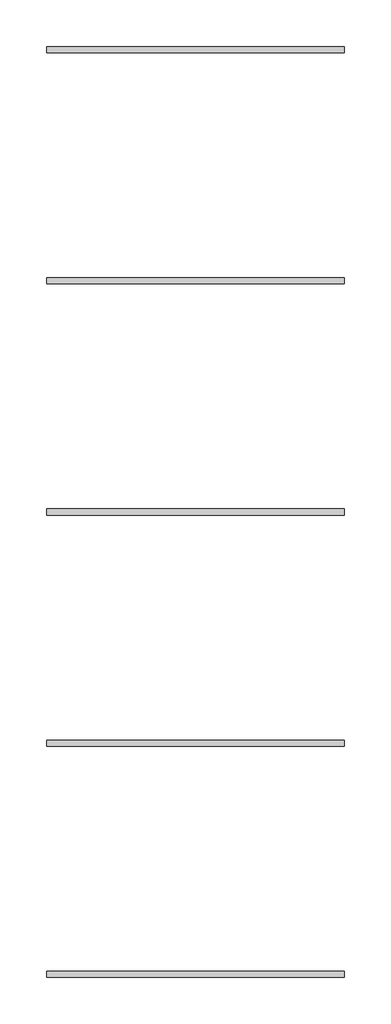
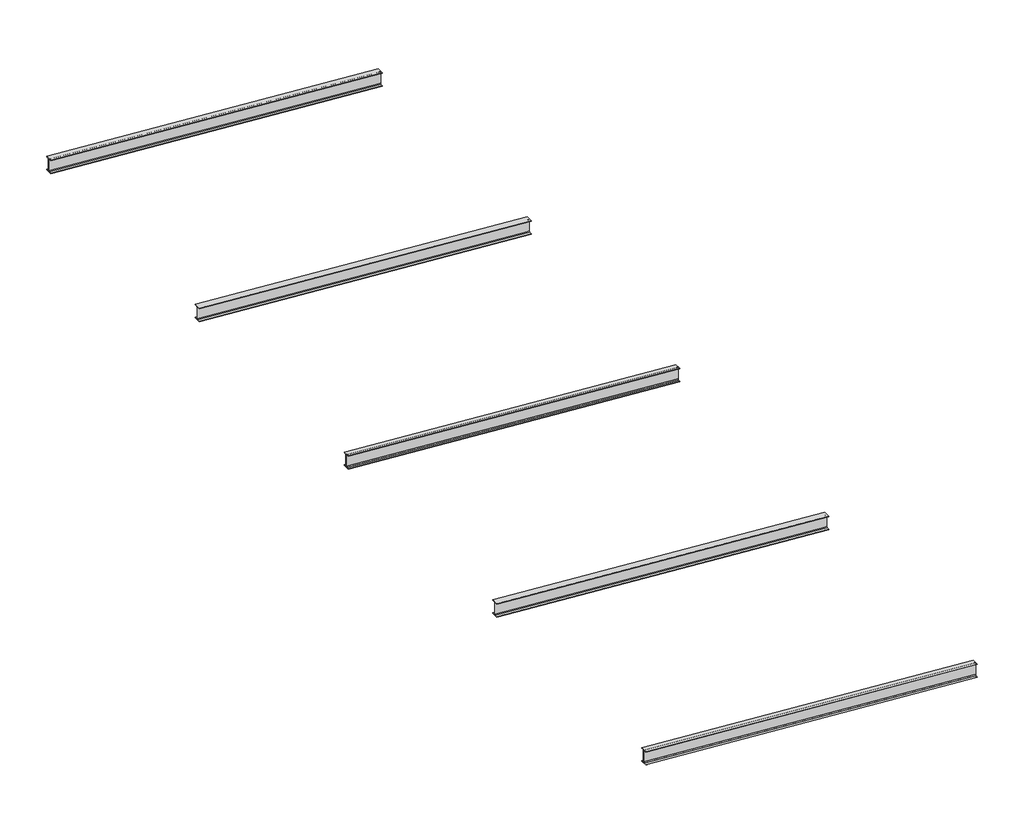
# One storey, part 2 of 2: 5 beams.
"""IFC4 building model written with IfcOpenShell, lengths in millimetres."""

import ifcopenshell
import ifcopenshell.guid

model = None  # the IFC model being written
_history = None  # IfcOwnerHistory: only IFC2X3 demands one
_inside = {}  # id of a spatial element -> (the spatial element, [elements in it])
_under = {}  # id of a project, library or spatial element -> (it, [spatial elements below it])
_declared = {}  # id of a project -> (the project, [libraries it declares])
_typed = {}  # id of a type object -> (the type object, [elements of that type])
_made_of = {}  # id of a material, layer set ... -> (it, [elements and type objects made of it])


def new_model(schema):
    """Start an empty IFC model of exactly this schema.

    Asked for "IFC4X3", IfcOpenShell would pick the latest addendum, in which some entities
    have other attributes; the version numbers below select the first issue.
    IFC2X3 requires an IfcOwnerHistory on every rooted entity: one is made here for all.
    """
    global model, _history
    if schema == "IFC4X3":
        model = ifcopenshell.file(schema_version=(4, 3, 0, 0))
    else:
        model = ifcopenshell.file(schema=schema)
    _inside.clear()
    _under.clear()
    _declared.clear()
    _typed.clear()
    _made_of.clear()
    _history = None
    if model.schema == "IFC2X3":
        org = make("IfcOrganization", Name="unknown")
        user = make(
            "IfcPersonAndOrganization",
            ThePerson=make("IfcPerson", FamilyName="unknown"),
            TheOrganization=org,
        )
        app = make(
            "IfcApplication",
            ApplicationDeveloper=org,
            Version="unknown",
            ApplicationFullName="unknown",
            ApplicationIdentifier="unknown",
        )
        _history = make(
            "IfcOwnerHistory",
            OwningUser=user,
            OwningApplication=app,
            ChangeAction="ADDED",
            CreationDate=0,
        )
    return model


def make(cls, **values):
    """One entity of the class cls with the attributes given. An attribute that is None is left unset."""
    return model.create_entity(
        cls, **{name: value for name, value in values.items() if value is not None}
    )


def rooted(cls, **values):
    """An entity with a GlobalId (a new one), such as an element, a storey or a relation."""
    return make(cls, GlobalId=ifcopenshell.guid.new(), OwnerHistory=_history, **values)


def si_unit(unit_type, name, prefix=None):
    """IfcSIUnit, for example si_unit("LENGTHUNIT", "METRE", prefix="MILLI")."""
    return make("IfcSIUnit", UnitType=unit_type, Prefix=prefix, Name=name)


def assignment(units):
    """IfcUnitAssignment: the units of a project."""
    return None if units is None else make("IfcUnitAssignment", Units=units)


def point(xyz):
    """IfcCartesianPoint."""
    return None if xyz is None else make("IfcCartesianPoint", Coordinates=xyz)


def direction(xyz):
    """IfcDirection."""
    return None if xyz is None else make("IfcDirection", DirectionRatios=xyz)


def frame(location, z_axis=None, x_axis=None):
    """IfcAxis2Placement3D, a coordinate frame: its origin and axes. An axis left out is left unset."""
    return make(
        "IfcAxis2Placement3D",
        Location=point(location),
        Axis=direction(z_axis),
        RefDirection=direction(x_axis),
    )


def origin():
    """The frame at (0, 0, 0) with its axes left unset."""
    return frame((0.0, 0.0, 0.0))


def place(relative_to, where):
    """IfcLocalPlacement: puts the frame where relative to a parent placement (None: the world)."""
    return make(
        "IfcLocalPlacement", PlacementRelTo=relative_to, RelativePlacement=where
    )


def context(
    kind, dimensions, precision=None, world=None, true_north=None, identifier=None
):
    """IfcGeometricRepresentationContext, for example the 3D "Model" context."""
    return make(
        "IfcGeometricRepresentationContext",
        ContextIdentifier=identifier,
        ContextType=kind,
        CoordinateSpaceDimension=dimensions,
        Precision=precision,
        WorldCoordinateSystem=world,
        TrueNorth=true_north,
    )


def project(units=None, contexts=None):
    """IfcProject with its units and contexts."""
    return rooted(
        "IfcProject",
        Name="project",
        RepresentationContexts=contexts,
        UnitsInContext=assignment(units),
    )


def spatial(cls, under=None, at=None, **own):
    """A site, building, storey or space (cls), placed at a placement, below another one or the project."""
    s = rooted(cls, ObjectPlacement=at, **own)
    if under is not None:
        _under.setdefault(under.id(), (under, []))[1].append(s)
    return s


def polyline(points):
    """IfcPolyline through the points."""
    return make("IfcPolyline", Points=[point(p) for p in points])


def ellipse_curve(where, semi_axis1, semi_axis2):
    """IfcEllipse in the frame where."""
    return make(
        "IfcEllipse", Position=where, SemiAxis1=semi_axis1, SemiAxis2=semi_axis2
    )


def shape(context_of_items, identifier, shape_type, items):
    """IfcShapeRepresentation: the items that make up one representation, for example the "Body"."""
    return make(
        "IfcShapeRepresentation",
        ContextOfItems=context_of_items,
        RepresentationIdentifier=identifier,
        RepresentationType=shape_type,
        Items=items,
    )


def made_of(thing, what):
    """Note that an element or type object is made of a material, layer set ...; save() writes the relation."""
    if what is not None:
        _made_of.setdefault(what.id(), (what, []))[1].append(thing)
    return thing


def element(
    cls,
    number,
    at=None,
    inside=None,
    cuts=None,
    type_object=None,
    material=None,
    context=None,
    identifier="Body",
    shape_type=None,
    held_by="IfcProductDefinitionShape",
    body=None,
    shapes=None,
    **own,
):
    """One element of the class cls, such as IfcWall. Its Tag is "e" and its number.

    at: its placement. inside: the storey or other place that contains it. cuts: it is an
    opening in that element (IfcRelVoidsElement). A single representation is given by context,
    identifier, shape_type and body (its items); several are given by shapes. held_by: the class
    of the entity that holds the representations. save() writes the other relations.
    """
    e = rooted(cls, Tag="e%d" % number, ObjectPlacement=at, **own)
    if body is not None:
        shapes = [shape(context, identifier, shape_type, body)]
    if shapes is not None:
        e.Representation = make(held_by, Representations=shapes)
    if inside is not None:
        _inside.setdefault(inside.id(), (inside, []))[1].append(e)
    if cuts is not None:
        rooted(
            "IfcRelVoidsElement", RelatingBuildingElement=cuts, RelatedOpeningElement=e
        )
    if type_object is not None:
        _typed.setdefault(type_object.id(), (type_object, []))[1].append(e)
    return made_of(e, material)


def aggregate(whole, parts):
    """IfcRelAggregates: a whole, such as a stair, and the parts it consists of."""
    return rooted("IfcRelAggregates", RelatingObject=whole, RelatedObjects=parts)


def save(model, path):
    """Write the relations noted so far, then the file.

    IfcRelAggregates (storeys below a building ...), IfcRelContainedInSpatialStructure (elements
    in a storey), IfcRelDefinesByType, IfcRelAssociatesMaterial and IfcRelDeclares: one each for
    every whole, place, type object, material and project.
    """
    for whole, parts in _under.values():
        aggregate(whole, parts)
    for where, things in _inside.values():
        rooted(
            "IfcRelContainedInSpatialStructure",
            RelatedElements=things,
            RelatingStructure=where,
        )
    for kind, things in _typed.values():
        rooted("IfcRelDefinesByType", RelatedObjects=things, RelatingType=kind)
    for what, things in _made_of.values():
        rooted("IfcRelAssociatesMaterial", RelatedObjects=things, RelatingMaterial=what)
    for by, libraries in _declared.values():
        rooted("IfcRelDeclares", RelatingContext=by, RelatedDefinitions=libraries)
    model.write(path)


def plane_surface(at):
    """IfcPlane: the flat surface through the origin of the frame at, square to its z axis."""
    return make("IfcPlane", Position=at)


def revolved_surface(curve, axis_point, axis_direction):
    """IfcSurfaceOfRevolution: the curve turned about the line through axis_point along axis_direction."""
    return make(
        "IfcSurfaceOfRevolution",
        SweptCurve=make("IfcArbitraryOpenProfileDef", ProfileType="CURVE", Curve=curve),
        AxisPosition=make("IfcAxis1Placement", Location=point(axis_point), Axis=direction(axis_direction)),
    )


def advanced_brep(points, edges, surfaces, faces):
    """IfcAdvancedBrep: a solid bounded by faces that lie on surfaces and meet in shared edges.

    An edge is (start, end): straight between two places in points (the first is 0);
    or (start, end, curve); or (start, end, curve, False) where it runs against its curve.
    A face is (place in surfaces, loops), or (place, loops, False) where it looks against
    its surface's normal. A loop lists edges by number (the first is 1), with a minus sign
    where the edge is run from its end to its start. The first loop is the outer one.
    """
    corners = [point(p) for p in points]
    vertices = [make("IfcVertexPoint", VertexGeometry=c) for c in corners]
    made = []
    for start, end, *more in edges:
        made.append(
            make(
                "IfcEdgeCurve",
                EdgeStart=vertices[start],
                EdgeEnd=vertices[end],
                EdgeGeometry=more[0] if more else make("IfcPolyline", Points=[corners[start], corners[end]]),
                SameSense=more[1] if len(more) > 1 else True,
            )
        )
    hull = []
    for where, loops, *sense in faces:
        bounds = []
        for j, loop in enumerate(loops):
            ring = [make("IfcOrientedEdge", EdgeElement=made[abs(k) - 1], Orientation=k > 0) for k in loop]
            bounds.append(
                make(
                    "IfcFaceOuterBound" if j == 0 else "IfcFaceBound",
                    Bound=make("IfcEdgeLoop", EdgeList=ring),
                    Orientation=True,
                )
            )
        hull.append(make("IfcAdvancedFace", Bounds=bounds, FaceSurface=surfaces[where], SameSense=sense[0] if sense else True))
    return make("IfcAdvancedBrep", Outer=make("IfcClosedShell", CfsFaces=hull))


model = new_model("IFC4")

# Units and contexts
model_context = context("Model", 3, world=origin())
ifc_project = project(units=[si_unit("LENGTHUNIT", "METRE", prefix="MILLI")], contexts=[model_context])

# Site, building, storey
site = spatial("IfcSite", under=ifc_project)
building = spatial("IfcBuilding", under=site)
storey = spatial("IfcBuildingStorey", under=building, Name="+3,50 góra", Elevation=3504.0)

# Beams
placement = place(None, origin())
element("IfcBeam", 1, ObjectType="RPLN IPE - Dwuteowniki równoległościenne : I330PE", at=placement, inside=storey, context=model_context, shape_type="AdvancedBrep", body=[
    advanced_brep(
    [(4098.4032904, 17109.2683415, 4052.3806511), (4098.4032904, 17167.5183415, 4052.3806511), (4098.4032904, 17167.5183415, 4040.8513801), (4098.4032904, 17007.5183415, 4040.8513801), (4098.4032904, 17007.5183415, 4052.3806511), (4098.4032904, 17065.7683415, 4052.3806511), (4098.4032904, 17083.7683415, 4070.4264665), (4098.4032904, 17083.7683415, 4342.1162438), (4098.4032904, 17065.7683415, 4360.1620592), (4098.4032904, 17007.5183415, 4360.1620592), (4098.4032904, 17007.5183415, 4371.6913302), (4098.4032904, 17167.5183415, 4371.6913302), (4098.4032904, 17167.5183415, 4360.1620592), (4098.4032904, 17109.2683415, 4360.1620592), (4098.4032904, 17091.2683415, 4342.1162438), (4098.4032904, 17091.2683415, 4070.4264665), (11827.9888896, 17167.5183415, 3500.5355804), (11827.9888896, 17109.2683415, 3500.5355804), (11827.9888896, 17091.2683415, 3518.5813959), (11827.9888896, 17091.2683415, 3790.2711731), (11827.9888896, 17109.2683415, 3808.3169886), (11827.9888896, 17167.5183415, 3808.3169886), (11827.9888896, 17167.5183415, 3819.8462596), (11827.9888896, 17007.5183415, 3819.8462596), (11827.9888896, 17007.5183415, 3808.3169886), (11827.9888896, 17065.7683415, 3808.3169886), (11827.9888896, 17083.7683415, 3790.2711731), (11827.9888896, 17083.7683415, 3518.5813959), (11827.9888896, 17065.7683415, 3500.5355804), (11827.9888896, 17007.5183415, 3500.5355804), (11827.9888896, 17007.5183415, 3489.0063094), (11827.9888896, 17167.5183415, 3489.0063094)],
    [
        (0, 1),
        (1, 2),
        (2, 3),
        (3, 4),
        (4, 5),
        (5, 6, ellipse_curve(frame((4098.4032904, 17065.7683415, 4070.4264665), z_axis=(1.0, 0.0, 0.0), x_axis=(0.0, 0.0, 1.0)), 18.0458155, 18.0)),
        (6, 7),
        (7, 8, ellipse_curve(frame((4098.4032904, 17065.7683415, 4342.1162438), z_axis=(1.0, 0.0, 0.0), x_axis=(0.0, 0.0, 1.0)), 18.0458155, 18.0)),
        (8, 9),
        (9, 10),
        (10, 11),
        (11, 12),
        (12, 13),
        (13, 14, ellipse_curve(frame((4098.4032904, 17109.2683415, 4342.1162438), z_axis=(1.0, 0.0, 0.0), x_axis=(0.0, 0.0, 1.0)), 18.0458155, 18.0)),
        (14, 15),
        (15, 0, ellipse_curve(frame((4098.4032904, 17109.2683415, 4070.4264665), z_axis=(1.0, 0.0, 0.0), x_axis=(0.0, 0.0, 1.0)), 18.0458155, 18.0)),
        (16, 17),
        (17, 18, ellipse_curve(frame((11827.9888896, 17109.2683415, 3518.5813959), z_axis=(-1.0, 0.0, 0.0), x_axis=(0.0, 0.0, 1.0)), 18.0458155, 18.0)),
        (18, 19),
        (19, 20, ellipse_curve(frame((11827.9888896, 17109.2683415, 3790.2711731), z_axis=(-1.0, 0.0, 0.0), x_axis=(0.0, 0.0, 1.0)), 18.0458155, 18.0)),
        (20, 21),
        (21, 22),
        (22, 23),
        (23, 24),
        (24, 25),
        (25, 26, ellipse_curve(frame((11827.9888896, 17065.7683415, 3790.2711731), z_axis=(-1.0, 0.0, 0.0), x_axis=(0.0, 0.0, 1.0)), 18.0458155, 18.0)),
        (26, 27),
        (27, 28, ellipse_curve(frame((11827.9888896, 17065.7683415, 3518.5813959), z_axis=(-1.0, 0.0, 0.0), x_axis=(0.0, 0.0, 1.0)), 18.0458155, 18.0)),
        (28, 29),
        (29, 30),
        (30, 31),
        (31, 16),
        (16, 1),
        (0, 17),
        (31, 2),
        (30, 3),
        (29, 4),
        (28, 5),
        (27, 6),
        (26, 7),
        (25, 8),
        (24, 9),
        (23, 10),
        (22, 11),
        (21, 12),
        (20, 13),
        (19, 14),
        (18, 15),
    ],
    [
        plane_surface(frame((4098.4032904, -28791.4644976, 4040.8513801), z_axis=(-1.0, 0.0, 0.0), x_axis=(0.0, 0.0, -1.0))),
        plane_surface(frame((11827.9888896, -28791.4644976, 3790.5936883), z_axis=(1.0, 0.0, 0.0), x_axis=(0.0, 0.0, 1.0))),
        plane_surface(frame((11888.751267, 17167.5183415, 3496.1975188), z_axis=(0.0712126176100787, 0.0, 0.997461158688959), x_axis=(-0.997461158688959, 0.0, 0.0712126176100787))),
        plane_surface(frame((11887.9323219, 17167.5183415, 3484.7267155), z_axis=(0.0, 1.0, 0.0), x_axis=(-0.997461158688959, 0.0, 0.0712126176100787))),
        plane_surface(frame((11887.9323219, 17007.5183415, 3484.7267155), z_axis=(-0.0712126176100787, 0.0, -0.997461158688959), x_axis=(-0.997461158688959, 0.0, 0.0712126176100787))),
        plane_surface(frame((11888.751267, 17007.5183415, 3496.1975188), z_axis=(0.0, -1.0, 0.0), x_axis=(-0.997461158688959, 0.0, 0.0712126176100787))),
        plane_surface(frame((11888.751267, 17065.7683415, 3496.1975188), z_axis=(0.0712126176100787, 0.0, 0.997461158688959), x_axis=(-0.997461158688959, 0.0, 0.0712126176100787))),
        revolved_surface(polyline([(4097.1214632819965, 17047.7683415, 4070.517981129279), (11829.270716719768, 17047.7683415, 3518.489881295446)]), (11890.0330941, 17065.7683415, 3514.1518197), (-0.997461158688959, 0.0, 0.0712126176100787)),
        plane_surface(frame((11909.3317135, 17083.7683415, 3784.4637937), z_axis=(0.0, -1.0, 0.0), x_axis=(-0.997461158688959, 0.0, 0.0712126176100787))),
        revolved_surface(polyline([(4097.121463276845, 17047.7683415, 4342.2077583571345), (11829.270716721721, 17047.7683415, 3790.179658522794)]), (11909.3317135, 17065.7683415, 3784.4637937), (-0.997461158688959, 0.0, 0.0712126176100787)),
        plane_surface(frame((11910.6135406, 17007.5183415, 3802.4180946), z_axis=(-0.0712126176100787, 0.0, -0.997461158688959), x_axis=(-0.997461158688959, 0.0, 0.0712126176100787))),
        plane_surface(frame((11911.4324857, 17007.5183415, 3813.8888979), z_axis=(0.0, -1.0, 0.0), x_axis=(-0.997461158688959, 0.0, 0.0712126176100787))),
        plane_surface(frame((11911.4324857, 17167.5183415, 3813.8888979), z_axis=(0.0712126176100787, 0.0, 0.997461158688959), x_axis=(-0.997461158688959, 0.0, 0.0712126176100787))),
        plane_surface(frame((11910.6135406, 17167.5183415, 3802.4180946), z_axis=(0.0, 1.0, 0.0), x_axis=(-0.997461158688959, 0.0, 0.0712126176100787))),
        plane_surface(frame((11910.6135406, 17109.2683415, 3802.4180946), z_axis=(-0.0712126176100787, 0.0, -0.997461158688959), x_axis=(-0.997461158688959, 0.0, 0.0712126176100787))),
        revolved_surface(polyline([(4097.121463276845, 17091.2683415, 4342.2077583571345), (11829.270716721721, 17091.2683415, 3790.179658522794)]), (11909.3317135, 17109.2683415, 3784.4637937), (-0.997461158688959, 0.0, 0.0712126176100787)),
        plane_surface(frame((11890.0330941, 17091.2683415, 3514.1518197), z_axis=(0.0, 1.0, 0.0), x_axis=(-0.997461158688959, 0.0, 0.0712126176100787))),
        revolved_surface(polyline([(4097.1214632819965, 17091.2683415, 4070.517981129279), (11829.270716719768, 17091.2683415, 3518.489881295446)]), (11890.0330941, 17109.2683415, 3514.1518197), (-0.997461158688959, 0.0, 0.0712126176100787)),
    ],
    [
        (0, [[1, 2, 3, 4, 5, 6, 7, 8, 9, 10, 11, 12, 13, 14, 15, 16]]),
        (1, [[17, 18, 19, 20, 21, 22, 23, 24, 25, 26, 27, 28, 29, 30, 31, 32]]),
        (2, [[33, -1, 34, -17]]),
        (3, [[35, -2, -33, -32]]),
        (4, [[36, -3, -35, -31]]),
        (5, [[37, -4, -36, -30]]),
        (6, [[38, -5, -37, -29]]),
        (7, [[39, -6, -38, -28]]),
        (8, [[40, -7, -39, -27]]),
        (9, [[41, -8, -40, -26]]),
        (10, [[42, -9, -41, -25]]),
        (11, [[43, -10, -42, -24]]),
        (12, [[44, -11, -43, -23]]),
        (13, [[45, -12, -44, -22]]),
        (14, [[46, -13, -45, -21]]),
        (15, [[47, -14, -46, -20]]),
        (16, [[48, -15, -47, -19]]),
        (17, [[-34, -16, -48, -18]]),
    ],
),
])
element("IfcBeam", 2, ObjectType="RPLN IPE - Dwuteowniki równoległościenne : I330PE", at=placement, inside=storey, context=model_context, shape_type="AdvancedBrep", body=[
    advanced_brep(
    [(4098.4032904, -6890.7316585, 4052.3806511), (4098.4032904, -6832.4816585, 4052.3806511), (4098.4032904, -6832.4816585, 4040.8513801), (4098.4032904, -6992.4816585, 4040.8513801), (4098.4032904, -6992.4816585, 4052.3806511), (4098.4032904, -6934.2316585, 4052.3806511), (4098.4032904, -6916.2316585, 4070.4264665), (4098.4032904, -6916.2316585, 4342.1162438), (4098.4032904, -6934.2316585, 4360.1620592), (4098.4032904, -6992.4816585, 4360.1620592), (4098.4032904, -6992.4816585, 4371.6913302), (4098.4032904, -6832.4816585, 4371.6913302), (4098.4032904, -6832.4816585, 4360.1620592), (4098.4032904, -6890.7316585, 4360.1620592), (4098.4032904, -6908.7316585, 4342.1162438), (4098.4032904, -6908.7316585, 4070.4264665), (11827.9888896, -6832.4816585, 3500.5355804), (11827.9888896, -6890.7316585, 3500.5355804), (11827.9888896, -6908.7316585, 3518.5813959), (11827.9888896, -6908.7316585, 3790.2711731), (11827.9888896, -6890.7316585, 3808.3169886), (11827.9888896, -6832.4816585, 3808.3169886), (11827.9888896, -6832.4816585, 3819.8462596), (11827.9888896, -6992.4816585, 3819.8462596), (11827.9888896, -6992.4816585, 3808.3169886), (11827.9888896, -6934.2316585, 3808.3169886), (11827.9888896, -6916.2316585, 3790.2711731), (11827.9888896, -6916.2316585, 3518.5813959), (11827.9888896, -6934.2316585, 3500.5355804), (11827.9888896, -6992.4816585, 3500.5355804), (11827.9888896, -6992.4816585, 3489.0063094), (11827.9888896, -6832.4816585, 3489.0063094)],
    [
        (0, 1),
        (1, 2),
        (2, 3),
        (3, 4),
        (4, 5),
        (5, 6, ellipse_curve(frame((4098.4032904, -6934.2316585, 4070.4264665), z_axis=(1.0, 0.0, 0.0), x_axis=(0.0, 0.0, 1.0)), 18.0458155, 18.0)),
        (6, 7),
        (7, 8, ellipse_curve(frame((4098.4032904, -6934.2316585, 4342.1162438), z_axis=(1.0, 0.0, 0.0), x_axis=(0.0, 0.0, 1.0)), 18.0458155, 18.0)),
        (8, 9),
        (9, 10),
        (10, 11),
        (11, 12),
        (12, 13),
        (13, 14, ellipse_curve(frame((4098.4032904, -6890.7316585, 4342.1162438), z_axis=(1.0, 0.0, 0.0), x_axis=(0.0, 0.0, 1.0)), 18.0458155, 18.0)),
        (14, 15),
        (15, 0, ellipse_curve(frame((4098.4032904, -6890.7316585, 4070.4264665), z_axis=(1.0, 0.0, 0.0), x_axis=(0.0, 0.0, 1.0)), 18.0458155, 18.0)),
        (16, 17),
        (17, 18, ellipse_curve(frame((11827.9888896, -6890.7316585, 3518.5813959), z_axis=(-1.0, 0.0, 0.0), x_axis=(0.0, 0.0, 1.0)), 18.0458155, 18.0)),
        (18, 19),
        (19, 20, ellipse_curve(frame((11827.9888896, -6890.7316585, 3790.2711731), z_axis=(-1.0, 0.0, 0.0), x_axis=(0.0, 0.0, 1.0)), 18.0458155, 18.0)),
        (20, 21),
        (21, 22),
        (22, 23),
        (23, 24),
        (24, 25),
        (25, 26, ellipse_curve(frame((11827.9888896, -6934.2316585, 3790.2711731), z_axis=(-1.0, 0.0, 0.0), x_axis=(0.0, 0.0, 1.0)), 18.0458155, 18.0)),
        (26, 27),
        (27, 28, ellipse_curve(frame((11827.9888896, -6934.2316585, 3518.5813959), z_axis=(-1.0, 0.0, 0.0), x_axis=(0.0, 0.0, 1.0)), 18.0458155, 18.0)),
        (28, 29),
        (29, 30),
        (30, 31),
        (31, 16),
        (16, 1),
        (0, 17),
        (31, 2),
        (30, 3),
        (29, 4),
        (28, 5),
        (27, 6),
        (26, 7),
        (25, 8),
        (24, 9),
        (23, 10),
        (22, 11),
        (21, 12),
        (20, 13),
        (19, 14),
        (18, 15),
    ],
    [
        plane_surface(frame((4098.4032904, -28791.4644976, 4040.8513801), z_axis=(-1.0, 0.0, 0.0), x_axis=(0.0, 0.0, -1.0))),
        plane_surface(frame((11827.9888896, -28791.4644976, 3790.5936883), z_axis=(1.0, 0.0, 0.0), x_axis=(0.0, 0.0, 1.0))),
        plane_surface(frame((11939.8742372, -6832.4816585, 3492.5476519), z_axis=(0.07121261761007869, 0.0, 0.997461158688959), x_axis=(-0.997461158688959, 0.0, 0.07121261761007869))),
        plane_surface(frame((11939.0552921, -6832.4816585, 3481.0768486), z_axis=(0.0, 1.0, 0.0), x_axis=(-0.997461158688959, 0.0, 0.07121261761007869))),
        plane_surface(frame((11939.0552921, -6992.4816585, 3481.0768486), z_axis=(-0.07121261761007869, 0.0, -0.997461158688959), x_axis=(-0.997461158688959, 0.0, 0.07121261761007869))),
        plane_surface(frame((11939.8742372, -6992.4816585, 3492.5476519), z_axis=(0.0, -1.0, 0.0), x_axis=(-0.997461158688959, 0.0, 0.07121261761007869))),
        plane_surface(frame((11939.8742372, -6934.2316585, 3492.5476519), z_axis=(0.07121261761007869, 0.0, 0.997461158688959), x_axis=(-0.997461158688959, 0.0, 0.07121261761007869))),
        revolved_surface(polyline([(4097.1214632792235, -6952.2316585, 4070.5179810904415), (11829.270716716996, -6952.2316585, 3518.4898812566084)]), (11941.1560643, -6934.2316585, 3510.5019527), (-0.997461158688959, 0.0, 0.07121261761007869)),
        plane_surface(frame((11960.4546837, -6916.2316585, 3780.8139267), z_axis=(0.0, -1.0, 0.0), x_axis=(-0.997461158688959, 0.0, 0.07121261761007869))),
        revolved_surface(polyline([(4097.121463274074, -6952.2316585, 4342.207758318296), (11829.270716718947, -6952.2316585, 3790.1796584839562)]), (11960.4546837, -6934.2316585, 3780.8139267), (-0.997461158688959, 0.0, 0.07121261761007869)),
        plane_surface(frame((11961.7365108, -6992.4816585, 3798.7682276), z_axis=(-0.07121261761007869, 0.0, -0.997461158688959), x_axis=(-0.997461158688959, 0.0, 0.07121261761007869))),
        plane_surface(frame((11962.5554559, -6992.4816585, 3810.2390309), z_axis=(0.0, -1.0, 0.0), x_axis=(-0.997461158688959, 0.0, 0.07121261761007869))),
        plane_surface(frame((11962.5554559, -6832.4816585, 3810.2390309), z_axis=(0.07121261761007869, 0.0, 0.997461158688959), x_axis=(-0.997461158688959, 0.0, 0.07121261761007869))),
        plane_surface(frame((11961.7365108, -6832.4816585, 3798.7682276), z_axis=(0.0, 1.0, 0.0), x_axis=(-0.997461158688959, 0.0, 0.07121261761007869))),
        plane_surface(frame((11961.7365108, -6890.7316585, 3798.7682276), z_axis=(-0.07121261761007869, 0.0, -0.997461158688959), x_axis=(-0.997461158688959, 0.0, 0.07121261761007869))),
        revolved_surface(polyline([(4097.121463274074, -6908.7316585, 4342.207758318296), (11829.270716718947, -6908.7316585, 3790.1796584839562)]), (11960.4546837, -6890.7316585, 3780.8139267), (-0.997461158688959, 0.0, 0.07121261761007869)),
        plane_surface(frame((11941.1560643, -6908.7316585, 3510.5019527), z_axis=(0.0, 1.0, 0.0), x_axis=(-0.997461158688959, 0.0, 0.07121261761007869))),
        revolved_surface(polyline([(4097.1214632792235, -6908.7316585, 4070.5179810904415), (11829.270716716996, -6908.7316585, 3518.4898812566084)]), (11941.1560643, -6890.7316585, 3510.5019527), (-0.997461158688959, 0.0, 0.07121261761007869)),
    ],
    [
        (0, [[1, 2, 3, 4, 5, 6, 7, 8, 9, 10, 11, 12, 13, 14, 15, 16]]),
        (1, [[17, 18, 19, 20, 21, 22, 23, 24, 25, 26, 27, 28, 29, 30, 31, 32]]),
        (2, [[33, -1, 34, -17]]),
        (3, [[35, -2, -33, -32]]),
        (4, [[36, -3, -35, -31]]),
        (5, [[37, -4, -36, -30]]),
        (6, [[38, -5, -37, -29]]),
        (7, [[39, -6, -38, -28]]),
        (8, [[40, -7, -39, -27]]),
        (9, [[41, -8, -40, -26]]),
        (10, [[42, -9, -41, -25]]),
        (11, [[43, -10, -42, -24]]),
        (12, [[44, -11, -43, -23]]),
        (13, [[45, -12, -44, -22]]),
        (14, [[46, -13, -45, -21]]),
        (15, [[47, -14, -46, -20]]),
        (16, [[48, -15, -47, -19]]),
        (17, [[-34, -16, -48, -18]]),
    ],
),
])
element("IfcBeam", 3, ObjectType="RPLN IPE - Dwuteowniki równoległościenne : I330PE", at=placement, inside=storey, context=model_context, shape_type="AdvancedBrep", body=[
    advanced_brep(
    [(4098.4032904, -890.7316585, 4052.3806511), (4098.4032904, -832.4816585, 4052.3806511), (4098.4032904, -832.4816585, 4040.8513801), (4098.4032904, -992.4816585, 4040.8513801), (4098.4032904, -992.4816585, 4052.3806511), (4098.4032904, -934.2316585, 4052.3806511), (4098.4032904, -916.2316585, 4070.4264665), (4098.4032904, -916.2316585, 4342.1162438), (4098.4032904, -934.2316585, 4360.1620592), (4098.4032904, -992.4816585, 4360.1620592), (4098.4032904, -992.4816585, 4371.6913302), (4098.4032904, -832.4816585, 4371.6913302), (4098.4032904, -832.4816585, 4360.1620592), (4098.4032904, -890.7316585, 4360.1620592), (4098.4032904, -908.7316585, 4342.1162438), (4098.4032904, -908.7316585, 4070.4264665), (11827.9888896, -832.4816585, 3500.5355804), (11827.9888896, -890.7316585, 3500.5355804), (11827.9888896, -908.7316585, 3518.5813959), (11827.9888896, -908.7316585, 3790.2711731), (11827.9888896, -890.7316585, 3808.3169886), (11827.9888896, -832.4816585, 3808.3169886), (11827.9888896, -832.4816585, 3819.8462596), (11827.9888896, -992.4816585, 3819.8462596), (11827.9888896, -992.4816585, 3808.3169886), (11827.9888896, -934.2316585, 3808.3169886), (11827.9888896, -916.2316585, 3790.2711731), (11827.9888896, -916.2316585, 3518.5813959), (11827.9888896, -934.2316585, 3500.5355804), (11827.9888896, -992.4816585, 3500.5355804), (11827.9888896, -992.4816585, 3489.0063094), (11827.9888896, -832.4816585, 3489.0063094)],
    [
        (0, 1),
        (1, 2),
        (2, 3),
        (3, 4),
        (4, 5),
        (5, 6, ellipse_curve(frame((4098.4032904, -934.2316585, 4070.4264665), z_axis=(1.0, 0.0, 0.0), x_axis=(0.0, 0.0, 1.0)), 18.0458155, 18.0)),
        (6, 7),
        (7, 8, ellipse_curve(frame((4098.4032904, -934.2316585, 4342.1162438), z_axis=(1.0, 0.0, 0.0), x_axis=(0.0, 0.0, 1.0)), 18.0458155, 18.0)),
        (8, 9),
        (9, 10),
        (10, 11),
        (11, 12),
        (12, 13),
        (13, 14, ellipse_curve(frame((4098.4032904, -890.7316585, 4342.1162438), z_axis=(1.0, 0.0, 0.0), x_axis=(0.0, 0.0, 1.0)), 18.0458155, 18.0)),
        (14, 15),
        (15, 0, ellipse_curve(frame((4098.4032904, -890.7316585, 4070.4264665), z_axis=(1.0, 0.0, 0.0), x_axis=(0.0, 0.0, 1.0)), 18.0458155, 18.0)),
        (16, 17),
        (17, 18, ellipse_curve(frame((11827.9888896, -890.7316585, 3518.5813959), z_axis=(-1.0, 0.0, 0.0), x_axis=(0.0, 0.0, 1.0)), 18.0458155, 18.0)),
        (18, 19),
        (19, 20, ellipse_curve(frame((11827.9888896, -890.7316585, 3790.2711731), z_axis=(-1.0, 0.0, 0.0), x_axis=(0.0, 0.0, 1.0)), 18.0458155, 18.0)),
        (20, 21),
        (21, 22),
        (22, 23),
        (23, 24),
        (24, 25),
        (25, 26, ellipse_curve(frame((11827.9888896, -934.2316585, 3790.2711731), z_axis=(-1.0, 0.0, 0.0), x_axis=(0.0, 0.0, 1.0)), 18.0458155, 18.0)),
        (26, 27),
        (27, 28, ellipse_curve(frame((11827.9888896, -934.2316585, 3518.5813959), z_axis=(-1.0, 0.0, 0.0), x_axis=(0.0, 0.0, 1.0)), 18.0458155, 18.0)),
        (28, 29),
        (29, 30),
        (30, 31),
        (31, 16),
        (16, 1),
        (0, 17),
        (31, 2),
        (30, 3),
        (29, 4),
        (28, 5),
        (27, 6),
        (26, 7),
        (25, 8),
        (24, 9),
        (23, 10),
        (22, 11),
        (21, 12),
        (20, 13),
        (19, 14),
        (18, 15),
    ],
    [
        plane_surface(frame((4098.4032904, -28791.4644976, 4040.8513801), z_axis=(-1.0, 0.0, 0.0), x_axis=(0.0, 0.0, -1.0))),
        plane_surface(frame((11827.9888896, -28791.4644976, 3790.5936883), z_axis=(1.0, 0.0, 0.0), x_axis=(0.0, 0.0, 1.0))),
        plane_surface(frame((11939.320539, -832.4816585, 3492.5871825), z_axis=(0.07121261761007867, 0.0, 0.997461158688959), x_axis=(-0.997461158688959, 0.0, 0.07121261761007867))),
        plane_surface(frame((11938.5015939, -832.4816585, 3481.1163792), z_axis=(0.0, 1.0, 0.0), x_axis=(-0.997461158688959, 0.0, 0.07121261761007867))),
        plane_surface(frame((11938.5015939, -992.4816585, 3481.1163792), z_axis=(-0.07121261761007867, 0.0, -0.997461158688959), x_axis=(-0.997461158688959, 0.0, 0.07121261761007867))),
        plane_surface(frame((11939.320539, -992.4816585, 3492.5871825), z_axis=(0.0, -1.0, 0.0), x_axis=(-0.997461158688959, 0.0, 0.07121261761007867))),
        plane_surface(frame((11939.320539, -934.2316585, 3492.5871825), z_axis=(0.07121261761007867, 0.0, 0.997461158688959), x_axis=(-0.997461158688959, 0.0, 0.07121261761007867))),
        revolved_surface(polyline([(4097.121463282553, -952.2316585, 4070.5179811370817), (11829.270716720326, -952.2316585, 3518.4898813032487)]), (11940.6023662, -934.2316585, 3510.5414834), (-0.997461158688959, 0.0, 0.07121261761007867)),
        plane_surface(frame((11959.9009855, -916.2316585, 3780.8534574), z_axis=(0.0, -1.0, 0.0), x_axis=(-0.997461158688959, 0.0, 0.07121261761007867))),
        revolved_surface(polyline([(4097.121463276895, -952.2316585, 4342.207758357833), (11829.27071672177, -952.2316585, 3790.1796585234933)]), (11959.9009855, -934.2316585, 3780.8534574), (-0.997461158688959, 0.0, 0.07121261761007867)),
        plane_surface(frame((11961.1828127, -992.4816585, 3798.8077583), z_axis=(-0.07121261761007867, 0.0, -0.997461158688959), x_axis=(-0.997461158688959, 0.0, 0.07121261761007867))),
        plane_surface(frame((11962.0017578, -992.4816585, 3810.2785616), z_axis=(0.0, -1.0, 0.0), x_axis=(-0.997461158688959, 0.0, 0.07121261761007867))),
        plane_surface(frame((11962.0017578, -832.4816585, 3810.2785616), z_axis=(0.07121261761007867, 0.0, 0.997461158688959), x_axis=(-0.997461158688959, 0.0, 0.07121261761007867))),
        plane_surface(frame((11961.1828127, -832.4816585, 3798.8077583), z_axis=(0.0, 1.0, 0.0), x_axis=(-0.997461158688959, 0.0, 0.07121261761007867))),
        plane_surface(frame((11961.1828127, -890.7316585, 3798.8077583), z_axis=(-0.07121261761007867, 0.0, -0.997461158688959), x_axis=(-0.997461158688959, 0.0, 0.07121261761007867))),
        revolved_surface(polyline([(4097.121463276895, -908.7316585, 4342.207758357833), (11829.27071672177, -908.7316585, 3790.1796585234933)]), (11959.9009855, -890.7316585, 3780.8534574), (-0.997461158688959, 0.0, 0.07121261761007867)),
        plane_surface(frame((11940.6023662, -908.7316585, 3510.5414834), z_axis=(0.0, 1.0, 0.0), x_axis=(-0.997461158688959, 0.0, 0.07121261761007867))),
        revolved_surface(polyline([(4097.121463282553, -908.7316585, 4070.5179811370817), (11829.270716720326, -908.7316585, 3518.4898813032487)]), (11940.6023662, -890.7316585, 3510.5414834), (-0.997461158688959, 0.0, 0.07121261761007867)),
    ],
    [
        (0, [[1, 2, 3, 4, 5, 6, 7, 8, 9, 10, 11, 12, 13, 14, 15, 16]]),
        (1, [[17, 18, 19, 20, 21, 22, 23, 24, 25, 26, 27, 28, 29, 30, 31, 32]]),
        (2, [[33, -1, 34, -17]]),
        (3, [[35, -2, -33, -32]]),
        (4, [[36, -3, -35, -31]]),
        (5, [[37, -4, -36, -30]]),
        (6, [[38, -5, -37, -29]]),
        (7, [[39, -6, -38, -28]]),
        (8, [[40, -7, -39, -27]]),
        (9, [[41, -8, -40, -26]]),
        (10, [[42, -9, -41, -25]]),
        (11, [[43, -10, -42, -24]]),
        (12, [[44, -11, -43, -23]]),
        (13, [[45, -12, -44, -22]]),
        (14, [[46, -13, -45, -21]]),
        (15, [[47, -14, -46, -20]]),
        (16, [[48, -15, -47, -19]]),
        (17, [[-34, -16, -48, -18]]),
    ],
),
])
element("IfcBeam", 4, ObjectType="RPLN IPE - Dwuteowniki równoległościenne : I330PE", at=placement, inside=storey, context=model_context, shape_type="AdvancedBrep", body=[
    advanced_brep(
    [(4098.4032904, 5109.2683415, 4052.3806511), (4098.4032904, 5167.5183415, 4052.3806511), (4098.4032904, 5167.5183415, 4040.8513801), (4098.4032904, 5007.5183415, 4040.8513801), (4098.4032904, 5007.5183415, 4052.3806511), (4098.4032904, 5065.7683415, 4052.3806511), (4098.4032904, 5083.7683415, 4070.4264665), (4098.4032904, 5083.7683415, 4342.1162438), (4098.4032904, 5065.7683415, 4360.1620592), (4098.4032904, 5007.5183415, 4360.1620592), (4098.4032904, 5007.5183415, 4371.6913302), (4098.4032904, 5167.5183415, 4371.6913302), (4098.4032904, 5167.5183415, 4360.1620592), (4098.4032904, 5109.2683415, 4360.1620592), (4098.4032904, 5091.2683415, 4342.1162438), (4098.4032904, 5091.2683415, 4070.4264665), (11827.9888896, 5167.5183415, 3500.5355804), (11827.9888896, 5109.2683415, 3500.5355804), (11827.9888896, 5091.2683415, 3518.5813959), (11827.9888896, 5091.2683415, 3790.2711731), (11827.9888896, 5109.2683415, 3808.3169886), (11827.9888896, 5167.5183415, 3808.3169886), (11827.9888896, 5167.5183415, 3819.8462596), (11827.9888896, 5007.5183415, 3819.8462596), (11827.9888896, 5007.5183415, 3808.3169886), (11827.9888896, 5065.7683415, 3808.3169886), (11827.9888896, 5083.7683415, 3790.2711731), (11827.9888896, 5083.7683415, 3518.5813959), (11827.9888896, 5065.7683415, 3500.5355804), (11827.9888896, 5007.5183415, 3500.5355804), (11827.9888896, 5007.5183415, 3489.0063094), (11827.9888896, 5167.5183415, 3489.0063094)],
    [
        (0, 1),
        (1, 2),
        (2, 3),
        (3, 4),
        (4, 5),
        (5, 6, ellipse_curve(frame((4098.4032904, 5065.7683415, 4070.4264665), z_axis=(1.0, 0.0, 0.0), x_axis=(0.0, 0.0, 1.0)), 18.0458155, 18.0)),
        (6, 7),
        (7, 8, ellipse_curve(frame((4098.4032904, 5065.7683415, 4342.1162438), z_axis=(1.0, 0.0, 0.0), x_axis=(0.0, 0.0, 1.0)), 18.0458155, 18.0)),
        (8, 9),
        (9, 10),
        (10, 11),
        (11, 12),
        (12, 13),
        (13, 14, ellipse_curve(frame((4098.4032904, 5109.2683415, 4342.1162438), z_axis=(1.0, 0.0, 0.0), x_axis=(0.0, 0.0, 1.0)), 18.0458155, 18.0)),
        (14, 15),
        (15, 0, ellipse_curve(frame((4098.4032904, 5109.2683415, 4070.4264665), z_axis=(1.0, 0.0, 0.0), x_axis=(0.0, 0.0, 1.0)), 18.0458155, 18.0)),
        (16, 17),
        (17, 18, ellipse_curve(frame((11827.9888896, 5109.2683415, 3518.5813959), z_axis=(-1.0, 0.0, 0.0), x_axis=(0.0, 0.0, 1.0)), 18.0458155, 18.0)),
        (18, 19),
        (19, 20, ellipse_curve(frame((11827.9888896, 5109.2683415, 3790.2711731), z_axis=(-1.0, 0.0, 0.0), x_axis=(0.0, 0.0, 1.0)), 18.0458155, 18.0)),
        (20, 21),
        (21, 22),
        (22, 23),
        (23, 24),
        (24, 25),
        (25, 26, ellipse_curve(frame((11827.9888896, 5065.7683415, 3790.2711731), z_axis=(-1.0, 0.0, 0.0), x_axis=(0.0, 0.0, 1.0)), 18.0458155, 18.0)),
        (26, 27),
        (27, 28, ellipse_curve(frame((11827.9888896, 5065.7683415, 3518.5813959), z_axis=(-1.0, 0.0, 0.0), x_axis=(0.0, 0.0, 1.0)), 18.0458155, 18.0)),
        (28, 29),
        (29, 30),
        (30, 31),
        (31, 16),
        (16, 1),
        (0, 17),
        (31, 2),
        (30, 3),
        (29, 4),
        (28, 5),
        (27, 6),
        (26, 7),
        (25, 8),
        (24, 9),
        (23, 10),
        (22, 11),
        (21, 12),
        (20, 13),
        (19, 14),
        (18, 15),
    ],
    [
        plane_surface(frame((4098.4032904, -28791.4644976, 4040.8513801), z_axis=(-1.0, 0.0, 0.0), x_axis=(0.0, 0.0, -1.0))),
        plane_surface(frame((11827.9888896, -28791.4644976, 3790.5936883), z_axis=(1.0, 0.0, 0.0), x_axis=(0.0, 0.0, 1.0))),
        plane_surface(frame((11896.6488305, 5167.5183415, 3495.6336812), z_axis=(0.07121261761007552, 0.0, 0.9974611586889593), x_axis=(-0.9974611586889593, 0.0, 0.07121261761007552))),
        plane_surface(frame((11895.8298854, 5167.5183415, 3484.1628778), z_axis=(0.0, 1.0000000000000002, 0.0), x_axis=(-0.9974611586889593, 0.0, 0.07121261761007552))),
        plane_surface(frame((11895.8298854, 5007.5183415, 3484.1628778), z_axis=(-0.07121261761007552, 0.0, -0.9974611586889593), x_axis=(-0.9974611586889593, 0.0, 0.07121261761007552))),
        plane_surface(frame((11896.6488305, 5007.5183415, 3495.6336812), z_axis=(0.0, -1.0000000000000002, 0.0), x_axis=(-0.9974611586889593, 0.0, 0.07121261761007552))),
        plane_surface(frame((11896.6488305, 5065.7683415, 3495.6336812), z_axis=(0.07121261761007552, 0.0, 0.9974611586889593), x_axis=(-0.9974611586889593, 0.0, 0.07121261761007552))),
        revolved_surface(polyline([(4097.121463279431, 5047.7683415, 4070.5179810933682), (11829.270716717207, 5047.7683415, 3518.4898812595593)]), (11897.9306576, 5065.7683415, 3513.587982), (-0.9974611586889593, 0.0, 0.07121261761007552)),
        plane_surface(frame((11917.229277, 5083.7683415, 3783.899956), z_axis=(0.0, -1.0000000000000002, 0.0), x_axis=(-0.9974611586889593, 0.0, 0.07121261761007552))),
        revolved_surface(polyline([(4097.121463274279, 5047.7683415, 4342.207758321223), (11829.270716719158, 5047.7683415, 3790.1796584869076)]), (11917.229277, 5065.7683415, 3783.899956), (-0.9974611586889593, 0.0, 0.07121261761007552)),
        plane_surface(frame((11918.5111041, 5007.5183415, 3801.8542569), z_axis=(-0.07121261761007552, 0.0, -0.9974611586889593), x_axis=(-0.9974611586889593, 0.0, 0.07121261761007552))),
        plane_surface(frame((11919.3300492, 5007.5183415, 3813.3250602), z_axis=(0.0, -1.0000000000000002, 0.0), x_axis=(-0.9974611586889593, 0.0, 0.07121261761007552))),
        plane_surface(frame((11919.3300492, 5167.5183415, 3813.3250602), z_axis=(0.07121261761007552, 0.0, 0.9974611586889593), x_axis=(-0.9974611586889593, 0.0, 0.07121261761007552))),
        plane_surface(frame((11918.5111041, 5167.5183415, 3801.8542569), z_axis=(0.0, 1.0000000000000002, 0.0), x_axis=(-0.9974611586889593, 0.0, 0.07121261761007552))),
        plane_surface(frame((11918.5111041, 5109.2683415, 3801.8542569), z_axis=(-0.07121261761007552, 0.0, -0.9974611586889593), x_axis=(-0.9974611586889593, 0.0, 0.07121261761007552))),
        revolved_surface(polyline([(4097.121463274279, 5091.2683415, 4342.207758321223), (11829.270716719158, 5091.2683415, 3790.1796584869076)]), (11917.229277, 5109.2683415, 3783.899956), (-0.9974611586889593, 0.0, 0.07121261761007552)),
        plane_surface(frame((11897.9306576, 5091.2683415, 3513.587982), z_axis=(0.0, 1.0000000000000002, 0.0), x_axis=(-0.9974611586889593, 0.0, 0.07121261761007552))),
        revolved_surface(polyline([(4097.121463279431, 5091.2683415, 4070.5179810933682), (11829.270716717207, 5091.2683415, 3518.4898812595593)]), (11897.9306576, 5109.2683415, 3513.587982), (-0.9974611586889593, 0.0, 0.07121261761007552)),
    ],
    [
        (0, [[1, 2, 3, 4, 5, 6, 7, 8, 9, 10, 11, 12, 13, 14, 15, 16]]),
        (1, [[17, 18, 19, 20, 21, 22, 23, 24, 25, 26, 27, 28, 29, 30, 31, 32]]),
        (2, [[33, -1, 34, -17]]),
        (3, [[35, -2, -33, -32]]),
        (4, [[36, -3, -35, -31]]),
        (5, [[37, -4, -36, -30]]),
        (6, [[38, -5, -37, -29]]),
        (7, [[39, -6, -38, -28]]),
        (8, [[40, -7, -39, -27]]),
        (9, [[41, -8, -40, -26]]),
        (10, [[42, -9, -41, -25]]),
        (11, [[43, -10, -42, -24]]),
        (12, [[44, -11, -43, -23]]),
        (13, [[45, -12, -44, -22]]),
        (14, [[46, -13, -45, -21]]),
        (15, [[47, -14, -46, -20]]),
        (16, [[48, -15, -47, -19]]),
        (17, [[-34, -16, -48, -18]]),
    ],
),
])
element("IfcBeam", 5, ObjectType="RPLN IPE - Dwuteowniki równoległościenne : I330PE", at=placement, inside=storey, context=model_context, shape_type="AdvancedBrep", body=[
    advanced_brep(
    [(4098.4032904, 11109.2683415, 4052.3806511), (4098.4032904, 11167.5183415, 4052.3806511), (4098.4032904, 11167.5183415, 4040.8513801), (4098.4032904, 11007.5183415, 4040.8513801), (4098.4032904, 11007.5183415, 4052.3806511), (4098.4032904, 11065.7683415, 4052.3806511), (4098.4032904, 11083.7683415, 4070.4264665), (4098.4032904, 11083.7683415, 4342.1162438), (4098.4032904, 11065.7683415, 4360.1620592), (4098.4032904, 11007.5183415, 4360.1620592), (4098.4032904, 11007.5183415, 4371.6913302), (4098.4032904, 11167.5183415, 4371.6913302), (4098.4032904, 11167.5183415, 4360.1620592), (4098.4032904, 11109.2683415, 4360.1620592), (4098.4032904, 11091.2683415, 4342.1162438), (4098.4032904, 11091.2683415, 4070.4264665), (11827.9888896, 11167.5183415, 3500.5355804), (11827.9888896, 11109.2683415, 3500.5355804), (11827.9888896, 11091.2683415, 3518.5813959), (11827.9888896, 11091.2683415, 3790.2711731), (11827.9888896, 11109.2683415, 3808.3169886), (11827.9888896, 11167.5183415, 3808.3169886), (11827.9888896, 11167.5183415, 3819.8462596), (11827.9888896, 11007.5183415, 3819.8462596), (11827.9888896, 11007.5183415, 3808.3169886), (11827.9888896, 11065.7683415, 3808.3169886), (11827.9888896, 11083.7683415, 3790.2711731), (11827.9888896, 11083.7683415, 3518.5813959), (11827.9888896, 11065.7683415, 3500.5355804), (11827.9888896, 11007.5183415, 3500.5355804), (11827.9888896, 11007.5183415, 3489.0063094), (11827.9888896, 11167.5183415, 3489.0063094)],
    [
        (0, 1),
        (1, 2),
        (2, 3),
        (3, 4),
        (4, 5),
        (5, 6, ellipse_curve(frame((4098.4032904, 11065.7683415, 4070.4264665), z_axis=(1.0, 0.0, 0.0), x_axis=(0.0, 0.0, 1.0)), 18.0458155, 18.0)),
        (6, 7),
        (7, 8, ellipse_curve(frame((4098.4032904, 11065.7683415, 4342.1162438), z_axis=(1.0, 0.0, 0.0), x_axis=(0.0, 0.0, 1.0)), 18.0458155, 18.0)),
        (8, 9),
        (9, 10),
        (10, 11),
        (11, 12),
        (12, 13),
        (13, 14, ellipse_curve(frame((4098.4032904, 11109.2683415, 4342.1162438), z_axis=(1.0, 0.0, 0.0), x_axis=(0.0, 0.0, 1.0)), 18.0458155, 18.0)),
        (14, 15),
        (15, 0, ellipse_curve(frame((4098.4032904, 11109.2683415, 4070.4264665), z_axis=(1.0, 0.0, 0.0), x_axis=(0.0, 0.0, 1.0)), 18.0458155, 18.0)),
        (16, 17),
        (17, 18, ellipse_curve(frame((11827.9888896, 11109.2683415, 3518.5813959), z_axis=(-1.0, 0.0, 0.0), x_axis=(0.0, 0.0, 1.0)), 18.0458155, 18.0)),
        (18, 19),
        (19, 20, ellipse_curve(frame((11827.9888896, 11109.2683415, 3790.2711731), z_axis=(-1.0, 0.0, 0.0), x_axis=(0.0, 0.0, 1.0)), 18.0458155, 18.0)),
        (20, 21),
        (21, 22),
        (22, 23),
        (23, 24),
        (24, 25),
        (25, 26, ellipse_curve(frame((11827.9888896, 11065.7683415, 3790.2711731), z_axis=(-1.0, 0.0, 0.0), x_axis=(0.0, 0.0, 1.0)), 18.0458155, 18.0)),
        (26, 27),
        (27, 28, ellipse_curve(frame((11827.9888896, 11065.7683415, 3518.5813959), z_axis=(-1.0, 0.0, 0.0), x_axis=(0.0, 0.0, 1.0)), 18.0458155, 18.0)),
        (28, 29),
        (29, 30),
        (30, 31),
        (31, 16),
        (16, 1),
        (0, 17),
        (31, 2),
        (30, 3),
        (29, 4),
        (28, 5),
        (27, 6),
        (26, 7),
        (25, 8),
        (24, 9),
        (23, 10),
        (22, 11),
        (21, 12),
        (20, 13),
        (19, 14),
        (18, 15),
    ],
    [
        plane_surface(frame((4098.4032904, -28791.4644976, 4040.8513801), z_axis=(-1.0, 0.0, 0.0), x_axis=(0.0, 0.0, -1.0))),
        plane_surface(frame((11827.9888896, -28791.4644976, 3790.5936883), z_axis=(1.0, 0.0, 0.0), x_axis=(0.0, 0.0, 1.0))),
        plane_surface(frame((11896.2916205, 11167.5183415, 3495.6591838), z_axis=(0.07121261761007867, 0.0, 0.997461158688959), x_axis=(-0.997461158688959, 0.0, 0.07121261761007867))),
        plane_surface(frame((11895.4726754, 11167.5183415, 3484.1883805), z_axis=(0.0, 1.0, 0.0), x_axis=(-0.997461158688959, 0.0, 0.07121261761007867))),
        plane_surface(frame((11895.4726754, 11007.5183415, 3484.1883805), z_axis=(-0.07121261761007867, 0.0, -0.997461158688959), x_axis=(-0.997461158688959, 0.0, 0.07121261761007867))),
        plane_surface(frame((11896.2916205, 11007.5183415, 3495.6591838), z_axis=(0.0, -1.0, 0.0), x_axis=(-0.997461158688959, 0.0, 0.07121261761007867))),
        plane_surface(frame((11896.2916205, 11065.7683415, 3495.6591838), z_axis=(0.07121261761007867, 0.0, 0.997461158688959), x_axis=(-0.997461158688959, 0.0, 0.07121261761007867))),
        revolved_surface(polyline([(4097.121463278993, 11047.7683415, 4070.5179810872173), (11829.270716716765, 11047.7683415, 3518.4898812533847)]), (11897.5734476, 11065.7683415, 3513.6134846), (-0.997461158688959, 0.0, 0.07121261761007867)),
        plane_surface(frame((11916.8720669, 11083.7683415, 3783.9254586), z_axis=(0.0, -1.0, 0.0), x_axis=(-0.997461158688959, 0.0, 0.07121261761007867))),
        revolved_surface(polyline([(4097.121463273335, 11047.7683415, 4342.207758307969), (11829.27071671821, 11047.7683415, 3790.1796584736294)]), (11916.8720669, 11065.7683415, 3783.9254586), (-0.997461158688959, 0.0, 0.07121261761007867)),
        plane_surface(frame((11918.1538941, 11007.5183415, 3801.8797595), z_axis=(-0.07121261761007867, 0.0, -0.997461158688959), x_axis=(-0.997461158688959, 0.0, 0.07121261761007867))),
        plane_surface(frame((11918.9728392, 11007.5183415, 3813.3505628), z_axis=(0.0, -1.0, 0.0), x_axis=(-0.997461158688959, 0.0, 0.07121261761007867))),
        plane_surface(frame((11918.9728392, 11167.5183415, 3813.3505628), z_axis=(0.07121261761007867, 0.0, 0.997461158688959), x_axis=(-0.997461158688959, 0.0, 0.07121261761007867))),
        plane_surface(frame((11918.1538941, 11167.5183415, 3801.8797595), z_axis=(0.0, 1.0, 0.0), x_axis=(-0.997461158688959, 0.0, 0.07121261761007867))),
        plane_surface(frame((11918.1538941, 11109.2683415, 3801.8797595), z_axis=(-0.07121261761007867, 0.0, -0.997461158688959), x_axis=(-0.997461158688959, 0.0, 0.07121261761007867))),
        revolved_surface(polyline([(4097.121463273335, 11091.2683415, 4342.207758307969), (11829.27071671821, 11091.2683415, 3790.1796584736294)]), (11916.8720669, 11109.2683415, 3783.9254586), (-0.997461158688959, 0.0, 0.07121261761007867)),
        plane_surface(frame((11897.5734476, 11091.2683415, 3513.6134846), z_axis=(0.0, 1.0, 0.0), x_axis=(-0.997461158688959, 0.0, 0.07121261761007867))),
        revolved_surface(polyline([(4097.121463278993, 11091.2683415, 4070.5179810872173), (11829.270716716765, 11091.2683415, 3518.4898812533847)]), (11897.5734476, 11109.2683415, 3513.6134846), (-0.997461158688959, 0.0, 0.07121261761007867)),
    ],
    [
        (0, [[1, 2, 3, 4, 5, 6, 7, 8, 9, 10, 11, 12, 13, 14, 15, 16]]),
        (1, [[17, 18, 19, 20, 21, 22, 23, 24, 25, 26, 27, 28, 29, 30, 31, 32]]),
        (2, [[33, -1, 34, -17]]),
        (3, [[35, -2, -33, -32]]),
        (4, [[36, -3, -35, -31]]),
        (5, [[37, -4, -36, -30]]),
        (6, [[38, -5, -37, -29]]),
        (7, [[39, -6, -38, -28]]),
        (8, [[40, -7, -39, -27]]),
        (9, [[41, -8, -40, -26]]),
        (10, [[42, -9, -41, -25]]),
        (11, [[43, -10, -42, -24]]),
        (12, [[44, -11, -43, -23]]),
        (13, [[45, -12, -44, -22]]),
        (14, [[46, -13, -45, -21]]),
        (15, [[47, -14, -46, -20]]),
        (16, [[48, -15, -47, -19]]),
        (17, [[-34, -16, -48, -18]]),
    ],
),
])

save(model, "model.ifc")
